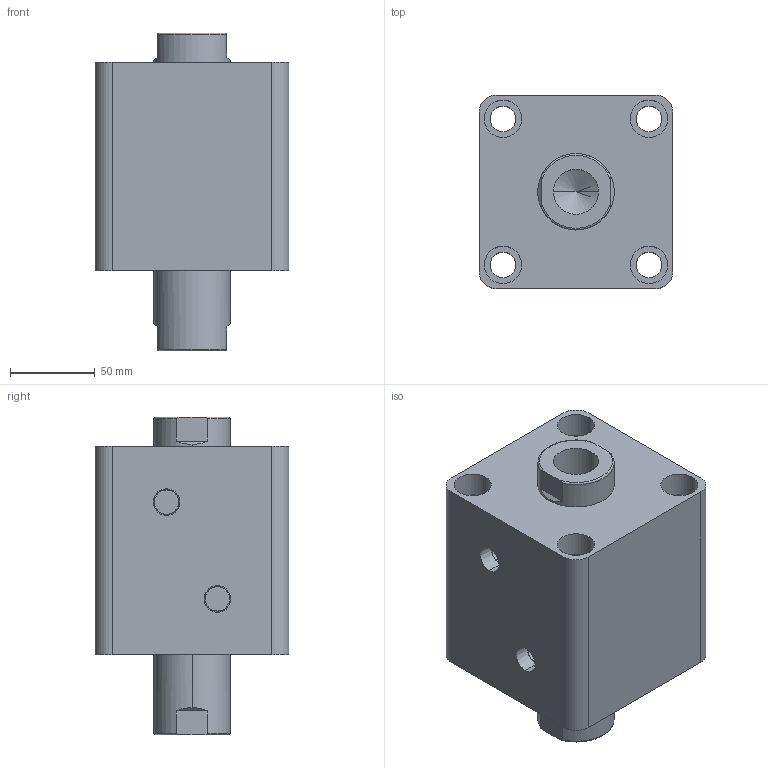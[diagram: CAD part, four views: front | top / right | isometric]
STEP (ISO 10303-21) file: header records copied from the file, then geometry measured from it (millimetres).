
FILE_DESCRIPTION (( 'STEP AP203' ), '1' );
FILE_NAME ('HTB-SW80-30N.STEP', '2019-10-07T10:21:16', ( '微软用户' ), ( '微软中国' ), 'SwSTEP 2.0', 'SolidWorks 2012', '' );
FILE_SCHEMA (( 'CONFIG_CONTROL_DESIGN' ));
Length unit declared in the file: millimetre
Products named in the file (3): HTB-SW80-30N; HTB-SW80-30N活塞杆; HTB-SW80-30掛极
Assembly tree (2 placements, depth 2):
  HTB-SW80-30N
    HTB-SW80-30掛极
    HTB-SW80-30N活塞杆
Bounding box: 114 x 114 x 187 mm (x, y, z)
Volume: 1439233.9 mm3; surface area: 177166.3 mm2
Topology: 2 solids, 2 shells, 100 faces, 228 edges, 146 vertices
Faces by surface type: cylinder 48, plane 32, torus 12, cone 8
Entity records: 3237 total; most frequent: CARTESIAN_POINT 595, DIRECTION 542, ORIENTED_EDGE 448, AXIS2_PLACEMENT_3D 229, EDGE_CURVE 224, VERTEX_POINT 146, EDGE_LOOP 128, CIRCLE 124
